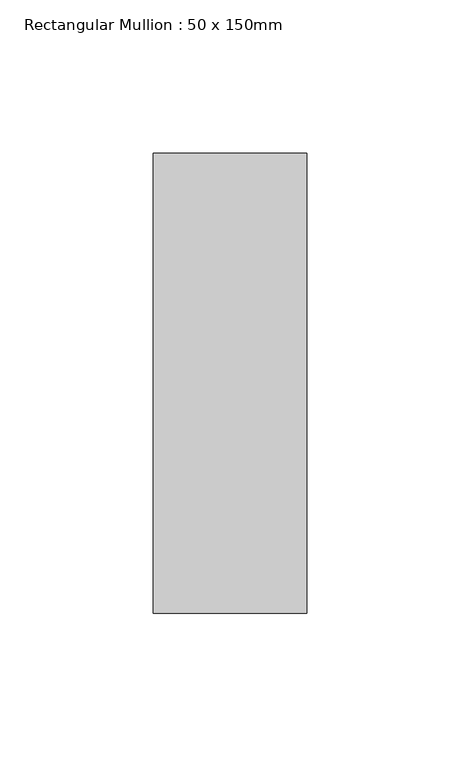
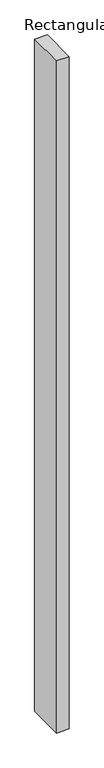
"""IFC4 building model written with IfcOpenShell, lengths in millimetres: member geometry, Rectangular Mullion : 50 x 150mm."""

from ifc_helpers import new_model, si_unit, frame, origin, place, context, project, spatial, polyline, outline, extrude, source, transform, mapped, element, save


def rectangular_mullion_50_x_150mm_0b116d56(model_context):
    return source(origin(), model_context, "Body", "SweptSolid", [
        extrude(outline(polyline([(0.0, 75.0), (0.0, -75.0), (-50.0, -75.0), (-50.0, 75.0), (0.0, 75.0)])), frame((0.0, 0.0, -2809.5604964), z_axis=(0.0, 0.0, 1.0), x_axis=(1.0, 0.0, 0.0)), (0.0, 0.0, 1.0), 2809.5604964),
    ])


if __name__ == "__main__":
    model = new_model("IFC4")
    model_context = context("Model", 3, world=origin())
    ifc_project = project(units=[si_unit("LENGTHUNIT", "METRE", prefix="MILLI")], contexts=[model_context])
    site = spatial("IfcSite", under=ifc_project)
    building = spatial("IfcBuilding", under=site)
    placement = place(None, origin())
    rectangular_mullion_50_x_150mm_shape = rectangular_mullion_50_x_150mm_0b116d56(model_context)
    element("IfcMember", 1, ObjectType="Rectangular Mullion : 50 x 150mm", at=placement, inside=building, context=model_context, shape_type="MappedRepresentation", body=[
        mapped(rectangular_mullion_50_x_150mm_shape, transform((0.0, 0.0, 0.0), x_axis=(1.0, 0.0, 0.0), y_axis=(0.0, 1.0, 0.0), z_axis=(0.0, 0.0, 1.0))),
    ])
    save(model, "model.ifc")
